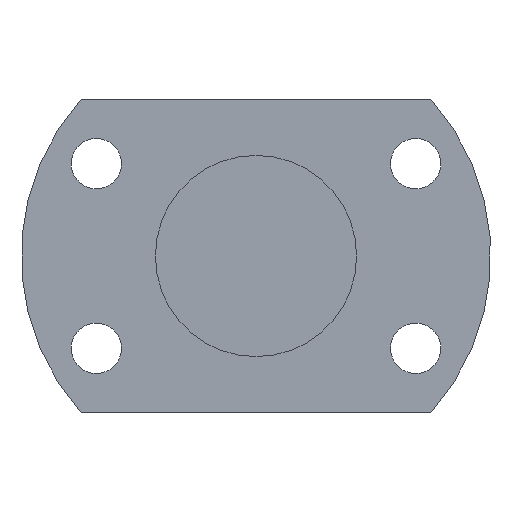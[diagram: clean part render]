
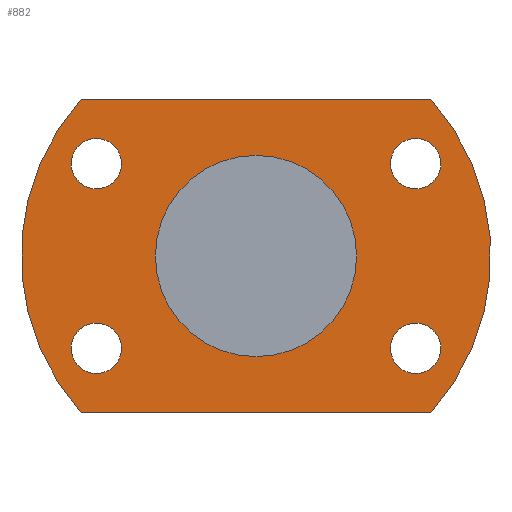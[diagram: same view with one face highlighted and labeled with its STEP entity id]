
A CAD part, left-side view. The second image highlights one B-rep face of the part: STEP entity #882.
In plain terms, the highlighted planar face has unit normal (-1, 0, 0).
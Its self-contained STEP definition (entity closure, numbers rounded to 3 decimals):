
#230=CARTESIAN_POINT('',(120.0,28.579,-12.));
#231=VERTEX_POINT('',#230);
#232=CARTESIAN_POINT('',(120.0,28.579,-16.5));
#233=DIRECTION('',(1.0,0.0,0.0));
#234=DIRECTION('',(0.0,0.0,1.0));
#235=AXIS2_PLACEMENT_3D('',#232,#233,#234);
#236=CIRCLE('',#235,4.5);
#237=EDGE_CURVE('',#231,#231,#236,.T.);
#279=CARTESIAN_POINT('',(120.0,-28.579,21.));
#280=VERTEX_POINT('',#279);
#281=CARTESIAN_POINT('',(120.0,-28.579,16.5));
#282=DIRECTION('',(1.0,0.0,0.0));
#283=DIRECTION('',(0.0,0.0,1.0));
#284=AXIS2_PLACEMENT_3D('',#281,#282,#283);
#285=CIRCLE('',#284,4.5);
#286=EDGE_CURVE('',#280,#280,#285,.T.);
#328=CARTESIAN_POINT('',(120.0,-28.579,-12.));
#329=VERTEX_POINT('',#328);
#330=CARTESIAN_POINT('',(120.0,-28.579,-16.5));
#331=DIRECTION('',(1.0,0.0,0.0));
#332=DIRECTION('',(0.0,0.0,1.0));
#333=AXIS2_PLACEMENT_3D('',#330,#331,#332);
#334=CIRCLE('',#333,4.5);
#335=EDGE_CURVE('',#329,#329,#334,.T.);
#377=CARTESIAN_POINT('',(120.0,28.579,21.));
#378=VERTEX_POINT('',#377);
#379=CARTESIAN_POINT('',(120.0,28.579,16.5));
#380=DIRECTION('',(1.0,0.0,0.0));
#381=DIRECTION('',(0.0,0.0,1.0));
#382=AXIS2_PLACEMENT_3D('',#379,#380,#381);
#383=CIRCLE('',#382,4.5);
#384=EDGE_CURVE('',#378,#378,#383,.T.);
#688=CARTESIAN_POINT('',(120.0,-31.305,-28.));
#689=VERTEX_POINT('',#688);
#696=CARTESIAN_POINT('',(120.0,31.305,-28.));
#697=VERTEX_POINT('',#696);
#698=CARTESIAN_POINT('',(120.0,31.305,-28.));
#699=DIRECTION('',(0.0,-1.0,0.0));
#700=VECTOR('',#699,62.61);
#701=LINE('',#698,#700);
#702=EDGE_CURVE('',#697,#689,#701,.T.);
#719=CARTESIAN_POINT('',(120.0,-31.305,28.));
#720=VERTEX_POINT('',#719);
#727=CARTESIAN_POINT('',(120.0,0.0,0.));
#728=DIRECTION('',(-1.0,0.0,0.0));
#729=DIRECTION('',(0.0,0.0,1.0));
#730=AXIS2_PLACEMENT_3D('',#727,#728,#729);
#731=CIRCLE('',#730,42.0);
#732=EDGE_CURVE('',#689,#720,#731,.T.);
#744=CARTESIAN_POINT('',(120.0,31.305,28.));
#745=VERTEX_POINT('',#744);
#752=CARTESIAN_POINT('',(120.0,-31.305,28.));
#753=DIRECTION('',(0.0,1.0,0.0));
#754=VECTOR('',#753,62.61);
#755=LINE('',#752,#754);
#756=EDGE_CURVE('',#720,#745,#755,.T.);
#769=CARTESIAN_POINT('',(120.0,0.0,0.));
#770=DIRECTION('',(-1.0,0.0,0.0));
#771=DIRECTION('',(0.0,0.0,1.0));
#772=AXIS2_PLACEMENT_3D('',#769,#770,#771);
#773=CIRCLE('',#772,42.0);
#774=EDGE_CURVE('',#745,#697,#773,.T.);
#848=CARTESIAN_POINT('',(120.0,0.0,22.0));
#849=DIRECTION('',(-1.0,0.0,0.0));
#850=DIRECTION('',(0.0,0.0,1.0));
#851=AXIS2_PLACEMENT_3D('',#848,#849,#850);
#852=PLANE('',#851);
#853=ORIENTED_EDGE('',*,*,#774,.T.);
#854=ORIENTED_EDGE('',*,*,#702,.T.);
#855=ORIENTED_EDGE('',*,*,#732,.T.);
#856=ORIENTED_EDGE('',*,*,#756,.T.);
#857=EDGE_LOOP('',(#853,#854,#855,#856));
#858=FACE_OUTER_BOUND('',#857,.T.);
#859=ORIENTED_EDGE('',*,*,#237,.T.);
#860=EDGE_LOOP('',(#859));
#861=FACE_BOUND('',#860,.T.);
#862=ORIENTED_EDGE('',*,*,#286,.T.);
#863=EDGE_LOOP('',(#862));
#864=FACE_BOUND('',#863,.T.);
#865=ORIENTED_EDGE('',*,*,#335,.T.);
#866=EDGE_LOOP('',(#865));
#867=FACE_BOUND('',#866,.T.);
#868=ORIENTED_EDGE('',*,*,#384,.T.);
#869=EDGE_LOOP('',(#868));
#870=FACE_BOUND('',#869,.T.);
#871=CARTESIAN_POINT('',(120.0,0.0,18.0));
#872=VERTEX_POINT('',#871);
#873=CARTESIAN_POINT('',(120.0,0.0,0.));
#874=DIRECTION('',(-1.0,0.0,0.0));
#875=DIRECTION('',(0.0,0.0,1.0));
#876=AXIS2_PLACEMENT_3D('',#873,#874,#875);
#877=CIRCLE('',#876,18.0);
#878=EDGE_CURVE('',#872,#872,#877,.T.);
#879=ORIENTED_EDGE('',*,*,#878,.F.);
#880=EDGE_LOOP('',(#879));
#881=FACE_BOUND('',#880,.T.);
#882=ADVANCED_FACE('',(#858,#861,#864,#867,#870,#881),#852,.T.);
